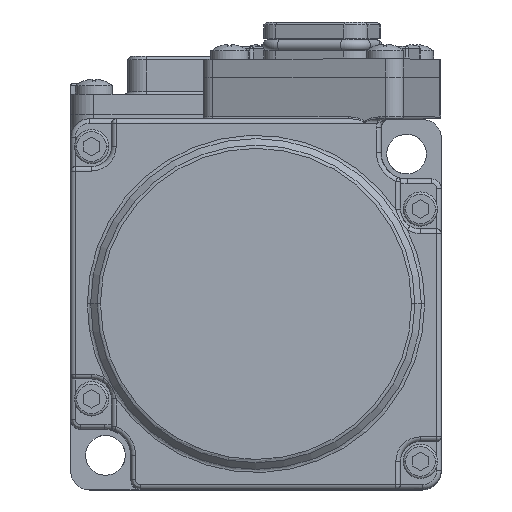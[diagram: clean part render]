
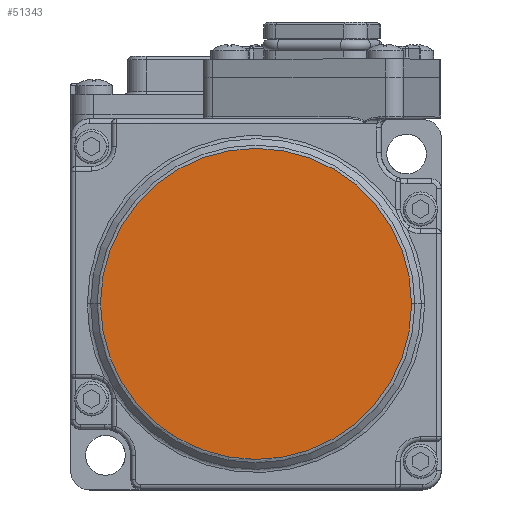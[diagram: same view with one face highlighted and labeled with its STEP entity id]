
A CAD part, top view. The second image highlights one B-rep face of the part: STEP entity #51343.
In plain terms, the highlighted planar face has unit normal (0, 0, 1).
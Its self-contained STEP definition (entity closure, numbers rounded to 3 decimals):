
#46890=CARTESIAN_POINT('',(0.,0.,17.5));
#46891=DIRECTION('',(0.,0.,-1.));
#46892=DIRECTION('',(1.,0.,0.));
#46893=AXIS2_PLACEMENT_3D('',#46890,#46891,#46892);
#46895=CARTESIAN_POINT('',(0.,0.,17.5));
#46896=DIRECTION('',(0.,0.,-1.));
#46897=DIRECTION('',(1.,-0.008,0.));
#46898=AXIS2_PLACEMENT_3D('',#46895,#46896,#46897);
#46900=CARTESIAN_POINT('',(0.,0.,17.5));
#46901=DIRECTION('',(0.,0.,-1.));
#46902=DIRECTION('',(-1.,0.,0.));
#46903=AXIS2_PLACEMENT_3D('',#46900,#46901,#46902);
#46905=CARTESIAN_POINT('',(0.,0.,17.5));
#46906=DIRECTION('',(0.,0.,-1.));
#46907=DIRECTION('',(-1.,0.008,0.));
#46908=AXIS2_PLACEMENT_3D('',#46905,#46906,#46907);
#47627=CARTESIAN_POINT('',(-16.792,0.134,17.5));
#47628=CARTESIAN_POINT('',(16.793,0.,17.5));
#47629=VERTEX_POINT('',#47627);
#47630=VERTEX_POINT('',#47628);
#47631=CARTESIAN_POINT('',(-16.793,0.,17.5));
#47632=VERTEX_POINT('',#47631);
#47633=CARTESIAN_POINT('',(16.792,-0.134,17.5));
#47634=VERTEX_POINT('',#47633);
#51330=CARTESIAN_POINT('',(0.,0.,17.5));
#51331=DIRECTION('',(0.,0.,1.));
#51332=DIRECTION('',(1.,0.,0.));
#51333=AXIS2_PLACEMENT_3D('',#51330,#51331,#51332);
#51334=PLANE('',#51333);
#51336=ORIENTED_EDGE('',*,*,#51335,.T.);
#51338=ORIENTED_EDGE('',*,*,#51337,.T.);
#51339=ORIENTED_EDGE('',*,*,#51318,.T.);
#51340=ORIENTED_EDGE('',*,*,#51316,.T.);
#51341=EDGE_LOOP('',(#51336,#51338,#51339,#51340));
#51342=FACE_OUTER_BOUND('',#51341,.F.);
#51343=ADVANCED_FACE('',(#51342),#51334,.T.);
#46894=CIRCLE('',#46893,16.793);
#46899=CIRCLE('',#46898,16.793);
#46904=CIRCLE('',#46903,16.793);
#46909=CIRCLE('',#46908,16.793);
#51316=EDGE_CURVE('',#47629,#47630,#46909,.T.);
#51318=EDGE_CURVE('',#47632,#47629,#46904,.T.);
#51335=EDGE_CURVE('',#47630,#47634,#46894,.T.);
#51337=EDGE_CURVE('',#47634,#47632,#46899,.T.);
